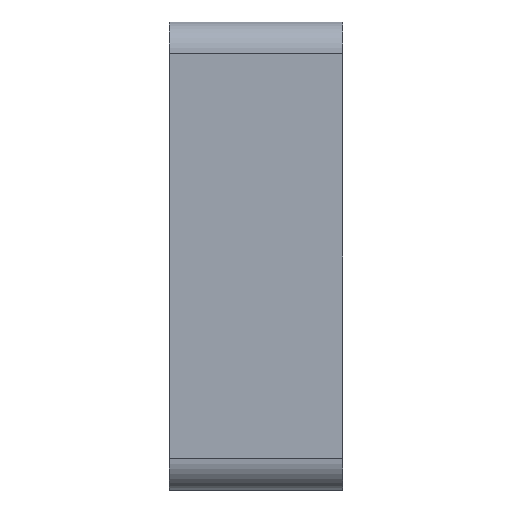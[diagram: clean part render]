
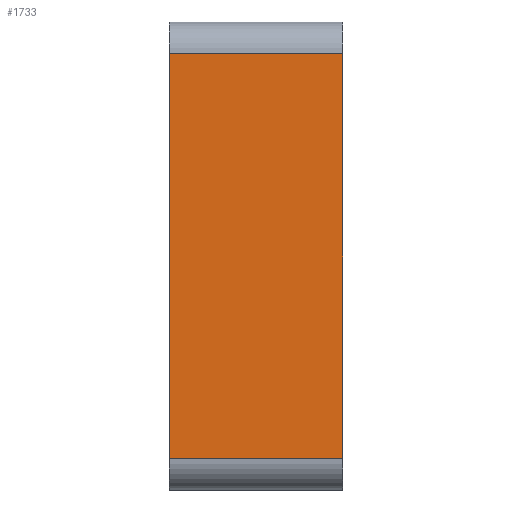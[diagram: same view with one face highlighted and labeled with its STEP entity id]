
A CAD part, left-side view. The second image highlights one B-rep face of the part: STEP entity #1733.
In plain terms, the highlighted planar face has unit normal (-1, 0, 0).
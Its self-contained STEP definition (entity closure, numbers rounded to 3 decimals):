
#8 = ORIENTED_EDGE ( 'NONE', *, *, #9132, .F. ) ;
#169 = DIRECTION ( 'NONE',  ( 0., 0., 1. ) ) ;
#216 = LINE ( 'NONE', #9349, #3865 ) ;
#268 = DIRECTION ( 'NONE',  ( 1., 0., 0. ) ) ;
#298 = VECTOR ( 'NONE', #4687, 1000. ) ;
#513 = EDGE_CURVE ( 'NONE', #6114, #7195, #8277, .T. ) ;
#591 = VECTOR ( 'NONE', #2919, 1000. ) ;
#1501 = CARTESIAN_POINT ( 'NONE',  ( -22.3, 179.76, 0. ) ) ;
#1733 = ADVANCED_FACE ( 'NONE', ( #4089 ), #2508, .F. ) ;
#1974 = DIRECTION ( 'NONE',  ( 0., -1., 0. ) ) ;
#2508 = PLANE ( 'NONE',  #2759 ) ;
#2661 = CARTESIAN_POINT ( 'NONE',  ( -22.3, 157.91, 0. ) ) ;
#2759 = AXIS2_PLACEMENT_3D ( 'NONE', #3524, #268, #9505 ) ;
#2919 = DIRECTION ( 'NONE',  ( 0., 1., 0. ) ) ;
#3336 = VECTOR ( 'NONE', #1974, 1000. ) ;
#3396 = EDGE_CURVE ( 'NONE', #9775, #5285, #6696, .T. ) ;
#3524 = CARTESIAN_POINT ( 'NONE',  ( -22.3, 179.76, 4. ) ) ;
#3865 = VECTOR ( 'NONE', #169, 1000. ) ;
#4089 = FACE_OUTER_BOUND ( 'NONE', #5260, .T. ) ;
#4476 = ORIENTED_EDGE ( 'NONE', *, *, #513, .T. ) ;
#4486 = CARTESIAN_POINT ( 'NONE',  ( -22.3, 157.91, 4. ) ) ;
#4687 = DIRECTION ( 'NONE',  ( 0., 0., -1. ) ) ;
#5260 = EDGE_LOOP ( 'NONE', ( #8, #7542, #9154, #4476 ) ) ;
#5285 = VERTEX_POINT ( 'NONE', #1501 ) ;
#6114 = VERTEX_POINT ( 'NONE', #8128 ) ;
#6671 = CARTESIAN_POINT ( 'NONE',  ( -22.3, 179.76, -50.8 ) ) ;
#6696 = LINE ( 'NONE', #9863, #591 ) ;
#6898 = LINE ( 'NONE', #4486, #298 ) ;
#7037 = CARTESIAN_POINT ( 'NONE',  ( -22.3, 157.91, -50.8 ) ) ;
#7195 = VERTEX_POINT ( 'NONE', #7037 ) ;
#7542 = ORIENTED_EDGE ( 'NONE', *, *, #3396, .T. ) ;
#8128 = CARTESIAN_POINT ( 'NONE',  ( -22.3, 179.76, -50.8 ) ) ;
#8277 = LINE ( 'NONE', #6671, #3336 ) ;
#9132 = EDGE_CURVE ( 'NONE', #9775, #7195, #6898, .T. ) ;
#9154 = ORIENTED_EDGE ( 'NONE', *, *, #9280, .F. ) ;
#9280 = EDGE_CURVE ( 'NONE', #6114, #5285, #216, .T. ) ;
#9349 = CARTESIAN_POINT ( 'NONE',  ( -22.3, 179.76, 4. ) ) ;
#9505 = DIRECTION ( 'NONE',  ( 0., 0., -1. ) ) ;
#9775 = VERTEX_POINT ( 'NONE', #2661 ) ;
#9863 = CARTESIAN_POINT ( 'NONE',  ( -22.3, 179.76, 0. ) ) ;
